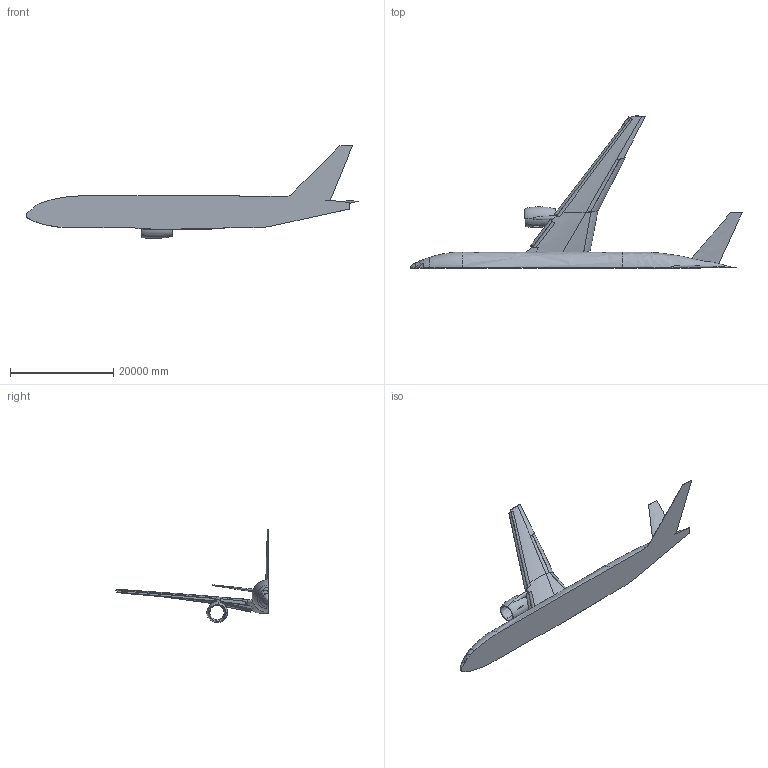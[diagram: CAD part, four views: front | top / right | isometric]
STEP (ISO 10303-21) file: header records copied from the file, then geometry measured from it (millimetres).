
FILE_DESCRIPTION(('CATIA V5 STEP Exchange'),'2;1');
FILE_NAME('\\nos\Data\CRM_HL\Test_Execution_Teams\ReferenceGeometry\ReferenceAssemblies\CRM-HL_ReferenceSolid_LDG_20230224.stp','2023-02-24T20:27:11+00:00',('none'),('none'),'CATIA Version 5-6 Release 2018 SP6 HF6','CATIA V5 STEP AP203','none');
FILE_SCHEMA(('CONFIG_CONTROL_DESIGN'));
Products named in the file (1): Part8
Bounding box: 64348.47 x 29461.71 x 18026.15 mm (x, y, z)
Volume: 913357199144.6 mm3; surface area: 1633232285.1 mm2
Topology: 3 solids, 3 shells, 90 faces, 312 edges, 224 vertices
Faces by surface type: bspline 71, plane 18, extrusion 1
Entity records: 452724 total; most frequent: CARTESIAN_POINT 450773, ORIENTED_EDGE 610, EDGE_CURVE 305, B_SPLINE_CURVE_WITH_KNOTS 293, VERTEX_POINT 224, EDGE_LOOP 95, ADVANCED_FACE 90, FACE_OUTER_BOUND 90
